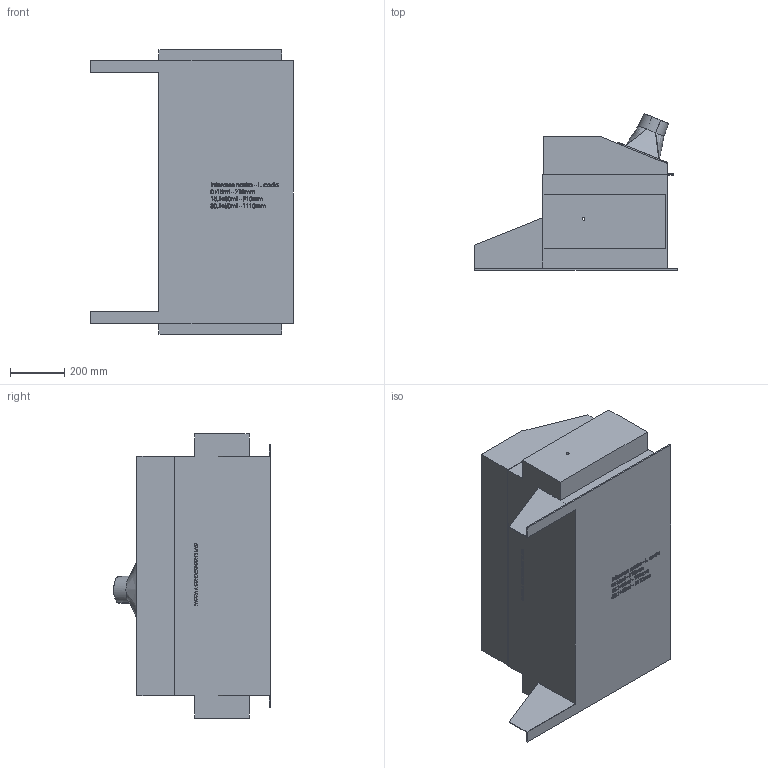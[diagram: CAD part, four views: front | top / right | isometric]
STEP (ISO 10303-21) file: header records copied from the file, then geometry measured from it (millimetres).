
FILE_DESCRIPTION (( 'STEP AP203' ), '1' );
FILE_NAME ('29334.step', '2019-03-14T14:30:29', ( 'PC' ), ( 'Hewlett-Packard Company' ), 'SwSTEP 2.0', 'SolidWorks 2016', '' );
FILE_SCHEMA (( 'CONFIG_CONTROL_DESIGN' ));
Products named in the file (1): 29334
Bounding box: 750 x 579.44 x 1050 mm (x, y, z)
Volume: 205795945.5 mm3; surface area: 3786013.4 mm2
Topology: 3 solids, 3 shells, 1165 faces, 3095 edges, 2057 vertices
Faces by surface type: plane 700, bspline 443, cylinder 20, cone 2
Entity records: 64426 total; most frequent: CARTESIAN_POINT 38359, ORIENTED_EDGE 6186, DIRECTION 3689, EDGE_CURVE 3093, VECTOR 2163, LINE 2163, VERTEX_POINT 2057, EDGE_LOOP 1304
